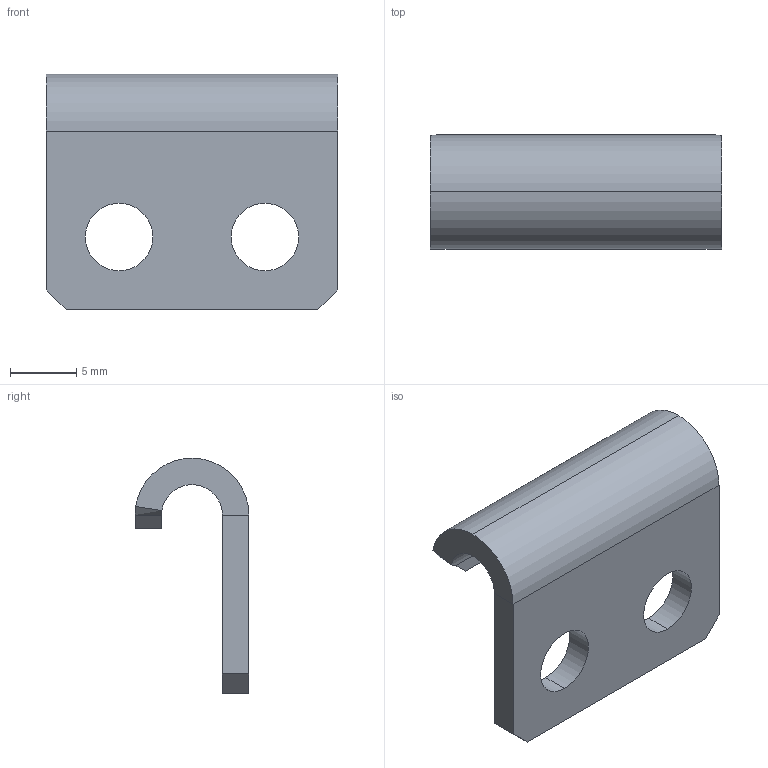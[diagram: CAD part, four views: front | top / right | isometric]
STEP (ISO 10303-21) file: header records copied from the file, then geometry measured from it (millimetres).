
FILE_DESCRIPTION (( 'STEP AP214' ), '1' );
FILE_NAME ('Gegenhaken-+-V917L11_ .STEP', '2009-09-14T08:00:18', ( '' ), ( '' ), 'SwSTEP 2.0', 'SolidWorks 2007', '' );
FILE_SCHEMA (( 'AUTOMOTIVE_DESIGN' ));
Length unit declared in the file: millimetre
Products named in the file (1): Gegenhaken-+-V917L11_ 
Bounding box: 22 x 8.6 x 17.8 mm (x, y, z)
Volume: 1003.4 mm3; surface area: 1248 mm2
Topology: 1 solids, 1 shells, 24 faces, 58 edges, 36 vertices
Faces by surface type: plane 14, cylinder 8, bspline 2
Entity records: 735 total; most frequent: CARTESIAN_POINT 151, ORIENTED_EDGE 116, DIRECTION 112, EDGE_CURVE 58, AXIS2_PLACEMENT_3D 39, VERTEX_POINT 36, LINE 34, VECTOR 34
